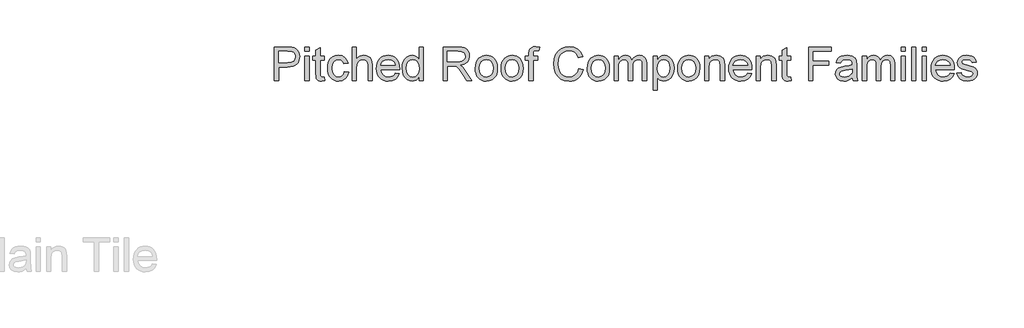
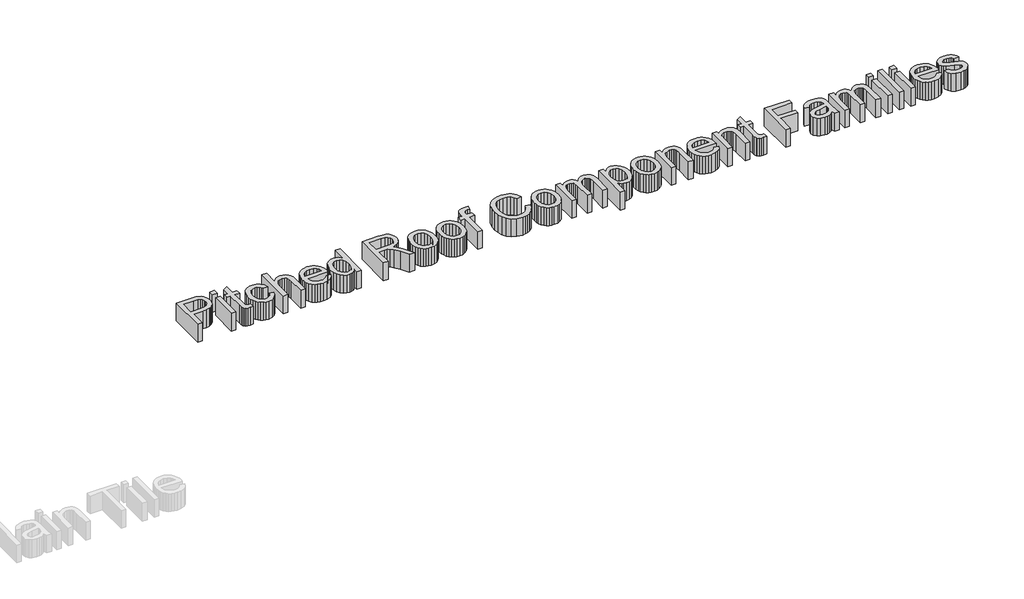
# One storey, part 6 of 6: 1 proxy.
"""IFC4 building model written with IfcOpenShell, lengths in millimetres."""

from ifc_helpers import new_model, si_unit, frame, origin, place, context, project, spatial, polyline, outline, extrude, element, save

model = new_model("IFC4")

# Units and contexts
model_context = context("Model", 3, world=origin())
ifc_project = project(units=[si_unit("LENGTHUNIT", "METRE", prefix="MILLI")], contexts=[model_context])

# Site, building, storey
site = spatial("IfcSite", under=ifc_project)
building = spatial("IfcBuilding", under=site)
storey = spatial("IfcBuildingStorey", under=building, Name="Marley Clay Plain Tile", Elevation=3000.0)

# Proxy
placement = place(None, origin())
element("IfcBuildingElementProxy", 1, Name="600mm Arial", ObjectType="600mm Arial", at=placement, inside=storey, context=model_context, shape_type="SweptSolid", body=[
    extrude(outline(polyline([(-10896.0304047, 7604.3149333), (-10896.0304047, 7899.6995487), (-10786.5592509, 7899.6995487), (-10742.4246355, 7896.8870487), (-10722.7461499, 7891.6316401), (-10706.5472316, 7883.0769526), (-10693.5033614, 7870.835366), (-10683.2900201, 7854.5192603), (-10676.6914624, 7835.273467), (-10674.4919432, 7814.242818), (-10680.432448, 7779.429116), (-10687.858079, 7764.1992483), (-10698.2539624, 7750.4207026), (-10712.5260477, 7738.9994285), (-10731.5802845, 7730.8413757), (-10755.4166727, 7725.9465439), (-10784.0352124, 7724.3149333), (-10859.1073278, 7724.3149333), (-10859.1073278, 7604.3149333), (-10896.0304047, 7604.3149333)]), holes=[polyline([(-10859.1073278, 7761.2380103), (-10781.8717509, 7761.2380103), (-10749.1313663, 7764.6274333), (-10727.4967509, 7774.7957026), (-10715.4354528, 7791.1118083), (-10711.4150201, 7812.944741), (-10713.7858134, 7829.5312795), (-10720.8981932, 7843.5216641), (-10731.8687461, 7854.0505103), (-10745.8140586, 7860.2524333), (-10782.7371355, 7862.7764718), (-10859.1073278, 7862.7764718), (-10859.1073278, 7761.2380103)])]), frame((0.0, 0.0, 3000.0), z_axis=(0.0, 0.0, 1.0), x_axis=(1.0, 0.0, 0.0)), (0.0, 0.0, 1.0), 150.0),
    extrude(outline(polyline([(-10628.338097, 7604.3149333), (-10628.338097, 7821.2380103), (-10591.4150201, 7821.2380103), (-10591.4150201, 7604.3149333), (-10628.338097, 7604.3149333)])), frame((0.0, 0.0, 3000.0), z_axis=(0.0, 0.0, 1.0), x_axis=(1.0, 0.0, 0.0)), (0.0, 0.0, 1.0), 150.0),
    extrude(outline(polyline([(-10628.338097, 7862.7764718), (-10628.338097, 7899.6995487), (-10591.4150201, 7899.6995487), (-10591.4150201, 7862.7764718), (-10628.338097, 7862.7764718)])), frame((0.0, 0.0, 3000.0), z_axis=(0.0, 0.0, 1.0), x_axis=(1.0, 0.0, 0.0)), (0.0, 0.0, 1.0), 150.0),
    extrude(outline(polyline([(-10457.5688663, 7635.1082026), (-10452.9534816, 7603.2332026), (-10480.5736739, 7599.6995487), (-10498.2960297, 7601.2320007), (-10511.5111739, 7605.8293564), (-10520.8501163, 7612.914693), (-10526.9438663, 7621.9110872), (-10530.2972316, 7637.3618083), (-10531.4150201, 7663.8101257), (-10531.4150201, 7784.3149333), (-10559.1073278, 7784.3149333), (-10559.1073278, 7821.2380103), (-10531.4150201, 7821.2380103), (-10531.4150201, 7873.9543564), (-10494.4919432, 7895.6610872), (-10494.4919432, 7821.2380103), (-10457.5688663, 7821.2380103), (-10457.5688663, 7784.3149333), (-10494.4919432, 7784.3149333), (-10494.4919432, 7664.8918564), (-10492.5448278, 7645.8533949), (-10486.2347316, 7639.1106064), (-10473.650597, 7636.6226257), (-10457.5688663, 7635.1082026)])), frame((0.0, 0.0, 3000.0), z_axis=(0.0, 0.0, 1.0), x_axis=(1.0, 0.0, 0.0)), (0.0, 0.0, 1.0), 150.0),
    extrude(outline(polyline([(-10282.1842509, 7682.7764718), (-10245.2611739, 7678.1610872), (-10255.5556451, 7645.3215439), (-10274.900597, 7620.5048372), (-10301.4751163, 7604.9008708), (-10333.4582893, 7599.6995487), (-10354.1666727, 7601.5137014), (-10372.7341307, 7606.9561593), (-10389.1606631, 7616.0269225), (-10403.4462701, 7628.725991), (-10415.0095213, 7644.8144826), (-10423.2689864, 7664.0535151), (-10428.2246655, 7686.4430884), (-10429.8765586, 7711.9832026), (-10427.0550441, 7744.8407747), (-10418.5905009, 7773.3173372), (-10404.3477124, 7796.3131305), (-10384.1914624, 7812.7283949), (-10360.0778807, 7822.5721449), (-10333.963097, 7825.8533949), (-10302.7641788, 7821.3461833), (-10277.8212701, 7807.8245487), (-10259.9276403, 7786.0096449), (-10249.8765586, 7756.6226257), (-10286.7996355, 7752.007241), (-10293.4973518, 7768.1160151), (-10303.9270393, 7779.663491), (-10317.5117749, 7786.6136112), (-10333.6746355, 7788.930318), (-10357.5358134, 7784.3690199), (-10376.4751163, 7770.6851257), (-10388.8338903, 7747.1394526), (-10392.9534816, 7712.992818), (-10388.9240345, 7678.3864478), (-10376.8356932, 7654.7596449), (-10358.2389384, 7641.1568805), (-10334.6842509, 7636.6226257), (-10315.5646595, 7639.4531545), (-10299.8885778, 7647.944741), (-10288.4853326, 7662.3137314), (-10282.1842509, 7682.7764718)])), frame((0.0, 0.0, 3000.0), z_axis=(0.0, 0.0, 1.0), x_axis=(1.0, 0.0, 0.0)), (0.0, 0.0, 1.0), 150.0),
    extrude(outline(polyline([(-10212.9534816, 7604.3149333), (-10212.9534816, 7899.6995487), (-10176.0304047, 7899.6995487), (-10176.0304047, 7791.0937795), (-10162.4682052, 7806.3011112), (-10147.2383374, 7817.163491), (-10130.3408013, 7823.6809189), (-10111.775597, 7825.8533949), (-10089.4739143, 7823.4826016), (-10070.3092509, 7816.3702218), (-10055.2191066, 7805.0751497), (-10045.1409816, 7790.1562795), (-10039.4618951, 7769.6574814), (-10037.5688663, 7741.6226257), (-10037.5688663, 7604.3149333), (-10074.4919432, 7604.3149333), (-10074.4919432, 7737.8005103), (-10077.4306451, 7760.913491), (-10086.2467509, 7776.742818), (-10100.4534816, 7785.883443), (-10119.5640586, 7788.930318), (-10135.1680249, 7786.8750295), (-10149.8164624, 7780.7091641), (-10161.9498759, 7771.0276737), (-10170.0087701, 7758.4255103), (-10174.5249961, 7741.6767122), (-10176.0304047, 7719.555318), (-10176.0304047, 7604.3149333), (-10212.9534816, 7604.3149333)])), frame((0.0, 0.0, 3000.0), z_axis=(0.0, 0.0, 1.0), x_axis=(1.0, 0.0, 0.0)), (0.0, 0.0, 1.0), 150.0),
    extrude(outline(polyline([(-9834.9246355, 7668.930318), (-9798.7227124, 7664.3149333), (-9811.7665826, 7637.0372891), (-9832.5808855, 7616.6466641), (-9860.6968711, 7603.9363276), (-9895.6457893, 7599.6995487), (-9918.5559456, 7601.527223), (-9938.9691066, 7607.0102458), (-9956.8852725, 7616.1486172), (-9972.3044432, 7628.9423372), (-9984.7037821, 7645.035336), (-9993.5604528, 7664.0715439), (-9998.8744552, 7686.050961), (-10000.6457893, 7710.9735872), (-9998.8564263, 7736.7413156), (-9993.4883374, 7759.4531545), (-9984.5415225, 7779.109104), (-9972.0159816, 7795.7091641), (-9956.6373759, 7808.8972651), (-9939.1313663, 7818.3173372), (-9919.4979528, 7823.9693805), (-9897.7371355, 7825.8533949), (-9876.6771896, 7823.9738877), (-9857.6319672, 7818.335366), (-9840.6014684, 7808.93783), (-9825.5856932, 7795.7812795), (-9813.3283314, 7779.2172771), (-9804.573073, 7759.5973853), (-9799.3199179, 7736.921604), (-9797.5688663, 7711.1899333), (-9797.7852124, 7701.2380103), (-9963.7227124, 7701.2380103), (-9957.3314864, 7673.5997891), (-9942.4847316, 7653.2812795), (-9921.057448, 7640.7872891), (-9894.9246355, 7636.6226257), (-9875.2731932, 7638.5517122), (-9858.7227124, 7644.3389718), (-9845.2731932, 7654.3449814), (-9834.9246355, 7668.930318)]), holes=[polyline([(-9963.7227124, 7738.1610872), (-9834.4919432, 7738.1610872), (-9839.4859336, 7757.6682987), (-9849.275597, 7771.6226257), (-9870.8020393, 7784.6033949), (-9897.8813663, 7788.930318), (-9922.7701884, 7785.4777939), (-9943.3501163, 7775.1202218), (-9957.6560057, 7758.9753901), (-9963.7227124, 7738.1610872)])]), frame((0.0, 0.0, 3000.0), z_axis=(0.0, 0.0, 1.0), x_axis=(1.0, 0.0, 0.0)), (0.0, 0.0, 1.0), 150.0),
    extrude(outline(polyline([(-9626.7996355, 7604.3149333), (-9626.7996355, 7639.1466641), (-9637.846811, 7621.8885511), (-9651.228722, 7609.5613276), (-9666.9453687, 7602.1649934), (-9684.9967509, 7599.6995487), (-9708.8669432, 7603.2692603), (-9730.7179047, 7613.9783949), (-9749.2155009, 7631.0787555), (-9763.025597, 7653.8221449), (-9771.6253566, 7681.289092), (-9774.4919432, 7712.5601257), (-9771.8507172, 7743.4435391), (-9763.9270393, 7771.3341641), (-9750.7299239, 7794.6454622), (-9732.2683855, 7811.7908949), (-9709.9396595, 7822.3377699), (-9685.1409816, 7825.8533949), (-9667.0760778, 7823.3383708), (-9651.1025201, 7815.7932987), (-9637.5628566, 7804.2277939), (-9626.7996355, 7789.6514718), (-9626.7996355, 7899.6995487), (-9589.8765586, 7899.6995487), (-9589.8765586, 7604.3149333), (-9626.7996355, 7604.3149333)]), holes=[polyline([(-9737.5688663, 7712.7043564), (-9733.4042028, 7679.3059189), (-9720.9102124, 7655.5529141), (-9702.7551643, 7641.3551978), (-9681.6073278, 7636.6226257), (-9660.4685057, 7641.1388516), (-9642.7731932, 7654.6875295), (-9630.7930249, 7677.5210632), (-9626.7996355, 7709.8918564), (-9630.8651403, 7745.2824814), (-9643.0616547, 7769.819741), (-9661.2076884, 7784.1526737), (-9683.1217509, 7788.930318), (-9704.4859336, 7784.3419766), (-9721.9919432, 7770.5769526), (-9733.6746355, 7746.9321208), (-9737.5688663, 7712.7043564)])]), frame((0.0, 0.0, 3000.0), z_axis=(0.0, 0.0, 1.0), x_axis=(1.0, 0.0, 0.0)), (0.0, 0.0, 1.0), 150.0),
    extrude(outline(polyline([(-9414.4919432, 7604.3149333), (-9414.4919432, 7899.6995487), (-9287.2082893, 7899.6995487), (-9252.9985538, 7897.7073612), (-9228.1097316, 7891.7307987), (-9209.9186259, 7880.6971449), (-9195.8020393, 7863.5336833), (-9186.7425441, 7842.2506305), (-9183.7227124, 7818.8582026), (-9188.7257172, 7789.7596449), (-9203.7347316, 7765.6370487), (-9215.1041727, 7755.8068204), (-9229.2004768, 7747.9507507), (-9265.5736739, 7738.1610872), (-9244.588097, 7722.367818), (-9214.6602124, 7684.3630103), (-9165.4054047, 7604.3149333), (-9208.3140586, 7604.3149333), (-9246.7515586, 7665.5408949), (-9274.5159816, 7706.069741), (-9294.0231932, 7725.2163757), (-9311.5832893, 7732.2476257), (-9333.0015586, 7733.5457026), (-9377.5688663, 7733.5457026), (-9377.5688663, 7604.3149333), (-9414.4919432, 7604.3149333)]), holes=[polyline([(-9377.5688663, 7770.4687795), (-9294.9246355, 7770.4687795), (-9271.1896595, 7771.7758708), (-9252.7731932, 7775.6971449), (-9238.9090105, 7782.4940199), (-9228.8308855, 7792.4279141), (-9222.6920634, 7804.4441401), (-9220.6457893, 7817.4880103), (-9224.5490345, 7835.4988276), (-9236.2587701, 7850.0120487), (-9256.4060057, 7859.585366), (-9285.6217509, 7862.7764718), (-9377.5688663, 7862.7764718), (-9377.5688663, 7770.4687795)])]), frame((0.0, 0.0, 3000.0), z_axis=(0.0, 0.0, 1.0), x_axis=(1.0, 0.0, 0.0)), (0.0, 0.0, 1.0), 150.0),
    extrude(outline(polyline([(-9132.9534816, 7712.7764718), (-9130.9567869, 7740.8699213), (-9124.9667028, 7765.0781545), (-9114.9832292, 7785.4011713), (-9101.0063663, 7801.8389718), (-9086.9348518, 7812.3452819), (-9071.4030009, 7819.8497891), (-9054.4108134, 7824.3524934), (-9035.9582893, 7825.8533949), (-9015.5879468, 7824.0257206), (-8997.1692268, 7818.5426978), (-8980.7021295, 7809.4043264), (-8966.1866547, 7796.6106064), (-8954.3394492, 7780.5942302), (-8945.8771595, 7761.7878901), (-8940.7997857, 7740.191586), (-8939.1073278, 7715.805318), (-8942.1001163, 7678.5036353), (-8951.0784816, 7650.1082026), (-8965.7810057, 7628.8431785), (-8985.9462701, 7612.9327218), (-9009.8975922, 7603.007842), (-9035.9582893, 7599.6995487), (-9056.6261078, 7601.5204622), (-9075.2161018, 7606.9832026), (-9091.7282713, 7616.0877699), (-9106.1626163, 7628.8341641), (-9117.8836199, 7645.0060391), (-9126.2557653, 7664.3870487), (-9131.2790526, 7686.977193), (-9132.9534816, 7712.7764718)]), holes=[polyline([(-9096.0304047, 7712.8485872), (-9091.7575682, 7679.4321208), (-9078.9390586, 7655.6250295), (-9059.6481932, 7641.3732266), (-9035.9582893, 7636.6226257), (-9012.3765586, 7641.4002699), (-8993.1217509, 7655.7332026), (-8980.3032413, 7679.8557987), (-8976.0304047, 7714.0024333), (-8980.3302845, 7746.445342), (-8993.2299239, 7769.9279141), (-9012.5117749, 7784.179717), (-9035.9582893, 7788.930318), (-9059.6481932, 7784.1977458), (-9078.9390586, 7770.0000295), (-9091.7575682, 7746.2470247), (-9096.0304047, 7712.8485872)])]), frame((0.0, 0.0, 3000.0), z_axis=(0.0, 0.0, 1.0), x_axis=(1.0, 0.0, 0.0)), (0.0, 0.0, 1.0), 150.0),
    extrude(outline(polyline([(-8906.7996355, 7712.7764718), (-8904.8029408, 7740.8699213), (-8898.8128566, 7765.0781545), (-8888.8293831, 7785.4011713), (-8874.8525201, 7801.8389718), (-8860.7810057, 7812.3452819), (-8845.2491547, 7819.8497891), (-8828.2569672, 7824.3524934), (-8809.8044432, 7825.8533949), (-8789.4341006, 7824.0257206), (-8771.0153807, 7818.5426978), (-8754.5482833, 7809.4043264), (-8740.0328086, 7796.6106064), (-8728.185603, 7780.5942302), (-8719.7233134, 7761.7878901), (-8714.6459396, 7740.191586), (-8712.9534816, 7715.805318), (-8715.9462701, 7678.5036353), (-8724.9246355, 7650.1082026), (-8739.6271595, 7628.8431785), (-8759.7924239, 7612.9327218), (-8783.7437461, 7603.007842), (-8809.8044432, 7599.6995487), (-8830.4722617, 7601.5204622), (-8849.0622557, 7606.9832026), (-8865.5744251, 7616.0877699), (-8880.0087701, 7628.8341641), (-8891.7297737, 7645.0060391), (-8900.1019191, 7664.3870487), (-8905.1252064, 7686.977193), (-8906.7996355, 7712.7764718)]), holes=[polyline([(-8869.8765586, 7712.8485872), (-8865.603722, 7679.4321208), (-8852.7852124, 7655.6250295), (-8833.494347, 7641.3732266), (-8809.8044432, 7636.6226257), (-8786.2227124, 7641.4002699), (-8766.9679047, 7655.7332026), (-8754.1493951, 7679.8557987), (-8749.8765586, 7714.0024333), (-8754.1764384, 7746.445342), (-8767.0760778, 7769.9279141), (-8786.3579288, 7784.179717), (-8809.8044432, 7788.930318), (-8833.494347, 7784.1977458), (-8852.7852124, 7770.0000295), (-8865.603722, 7746.2470247), (-8869.8765586, 7712.8485872)])]), frame((0.0, 0.0, 3000.0), z_axis=(0.0, 0.0, 1.0), x_axis=(1.0, 0.0, 0.0)), (0.0, 0.0, 1.0), 150.0),
    extrude(outline(polyline([(-8662.1842509, 7604.3149333), (-8662.1842509, 7784.3149333), (-8694.4919432, 7784.3149333), (-8694.4919432, 7821.2380103), (-8662.1842509, 7821.2380103), (-8662.1842509, 7843.0889718), (-8658.2900201, 7873.882241), (-8650.8621355, 7886.1598853), (-8639.3957893, 7895.8774333), (-8623.3501163, 7902.2055583), (-8602.1842509, 7904.3149333), (-8568.5063663, 7900.2764718), (-8573.9150201, 7865.6610872), (-8595.1890586, 7867.3918564), (-8609.2245153, 7865.8594045), (-8618.4462701, 7861.2620487), (-8623.557448, 7852.4820007), (-8625.2611739, 7838.4014718), (-8625.2611739, 7821.2380103), (-8583.7227124, 7821.2380103), (-8583.7227124, 7784.3149333), (-8625.2611739, 7784.3149333), (-8625.2611739, 7604.3149333), (-8662.1842509, 7604.3149333)])), frame((0.0, 0.0, 3000.0), z_axis=(0.0, 0.0, 1.0), x_axis=(1.0, 0.0, 0.0)), (0.0, 0.0, 1.0), 150.0),
    extrude(outline(polyline([(-8223.7227124, 7709.3149333), (-8186.7996355, 7699.7957026), (-8194.1058254, 7676.8337134), (-8203.8368951, 7656.7698612), (-8215.9928446, 7639.6041461), (-8230.5736739, 7625.336568), (-8247.2503566, 7614.120372), (-8265.6938663, 7606.1088035), (-8285.9042028, 7601.3018624), (-8307.8813663, 7599.6995487), (-8350.7088903, 7604.5493083), (-8384.7203086, 7619.0985872), (-8410.7900201, 7642.8425776), (-8429.7924239, 7675.2764718), (-8441.3939864, 7713.4074814), (-8445.2611739, 7754.242818), (-8440.8891788, 7797.3137314), (-8427.7731932, 7834.507241), (-8406.5983134, 7864.6424574), (-8378.0496355, 7886.538491), (-8344.1914624, 7899.8708228), (-8307.088097, 7904.3149333), (-8266.604323, 7898.5637314), (-8248.9923939, 7891.374729), (-8233.1337701, 7881.3101257), (-8219.2898699, 7868.6358468), (-8207.7221114, 7853.617818), (-8191.4150201, 7816.5505103), (-8228.338097, 7807.7524333), (-8241.1385778, 7834.6785151), (-8258.6265586, 7853.149068), (-8281.0183855, 7863.8311593), (-8308.5304047, 7867.3918564), (-8340.2431451, 7863.4435391), (-8366.2948278, 7851.5985872), (-8386.0634576, 7833.100991), (-8398.9270393, 7809.194741), (-8405.9853326, 7782.1695007), (-8408.338097, 7754.3149333), (-8405.5526403, 7720.2043564), (-8397.1962701, 7690.7091641), (-8382.9534816, 7666.9561593), (-8362.5087701, 7650.0721449), (-8337.9985538, 7639.9850055), (-8311.5592509, 7636.6226257), (-8280.7389384, 7641.2019526), (-8255.056847, 7654.9399333), (-8235.666823, 7677.6923372), (-8223.7227124, 7709.3149333)])), frame((0.0, 0.0, 3000.0), z_axis=(0.0, 0.0, 1.0), x_axis=(1.0, 0.0, 0.0)), (0.0, 0.0, 1.0), 150.0),
    extrude(outline(polyline([(-8149.8765586, 7712.7764718), (-8147.8798638, 7740.8699213), (-8141.8897797, 7765.0781545), (-8131.9063062, 7785.4011713), (-8117.9294432, 7801.8389718), (-8103.8579288, 7812.3452819), (-8088.3260778, 7819.8497891), (-8071.3338903, 7824.3524934), (-8052.8813663, 7825.8533949), (-8032.5110237, 7824.0257206), (-8014.0923038, 7818.5426978), (-7997.6252064, 7809.4043264), (-7983.1097316, 7796.6106064), (-7971.2625261, 7780.5942302), (-7962.8002364, 7761.7878901), (-7957.7228626, 7740.191586), (-7956.0304047, 7715.805318), (-7959.0231932, 7678.5036353), (-7968.0015586, 7650.1082026), (-7982.7040826, 7628.8431785), (-8002.869347, 7612.9327218), (-8026.8206691, 7603.007842), (-8052.8813663, 7599.6995487), (-8073.5491848, 7601.5204622), (-8092.1391788, 7606.9832026), (-8108.6513482, 7616.0877699), (-8123.0856932, 7628.8341641), (-8134.8066968, 7645.0060391), (-8143.1788422, 7664.3870487), (-8148.2021295, 7686.977193), (-8149.8765586, 7712.7764718)]), holes=[polyline([(-8112.9534816, 7712.8485872), (-8108.6806451, 7679.4321208), (-8095.8621355, 7655.6250295), (-8076.5712701, 7641.3732266), (-8052.8813663, 7636.6226257), (-8029.2996355, 7641.4002699), (-8010.0448278, 7655.7332026), (-7997.2263182, 7679.8557987), (-7992.9534816, 7714.0024333), (-7997.2533614, 7746.445342), (-8010.1530009, 7769.9279141), (-8029.4348518, 7784.179717), (-8052.8813663, 7788.930318), (-8076.5712701, 7784.1977458), (-8095.8621355, 7770.0000295), (-8108.6806451, 7746.2470247), (-8112.9534816, 7712.8485872)])]), frame((0.0, 0.0, 3000.0), z_axis=(0.0, 0.0, 1.0), x_axis=(1.0, 0.0, 0.0)), (0.0, 0.0, 1.0), 150.0),
    extrude(outline(polyline([(-7914.4919432, 7604.3149333), (-7914.4919432, 7821.2380103), (-7877.5688663, 7821.2380103), (-7877.5688663, 7785.5408949), (-7866.463097, 7801.9381305), (-7852.1842509, 7814.7836833), (-7835.2191066, 7823.085967), (-7816.0544432, 7825.8533949), (-7795.5195874, 7823.0318805), (-7779.0592509, 7814.5673372), (-7766.7635778, 7801.0186593), (-7758.7227124, 7782.944741), (-7745.2641788, 7801.7172771), (-7729.9126163, 7815.1262314), (-7712.6680249, 7823.171604), (-7693.5304047, 7825.8533949), (-7665.7749961, 7821.3912555), (-7645.2491547, 7808.0048372), (-7632.5658614, 7785.3335632), (-7628.338097, 7753.0168564), (-7628.338097, 7604.3149333), (-7665.2611739, 7604.3149333), (-7665.2611739, 7737.1514718), (-7668.6866547, 7767.9807987), (-7673.5003566, 7776.4813997), (-7681.0905009, 7783.1610872), (-7690.8531211, 7787.4880103), (-7702.1842509, 7788.930318), (-7722.1872557, 7785.2344045), (-7738.494347, 7774.1466641), (-7749.338698, 7754.9098853), (-7752.9534816, 7726.7668564), (-7752.9534816, 7604.3149333), (-7789.8765586, 7604.3149333), (-7789.8765586, 7741.2620487), (-7792.0129768, 7762.1394526), (-7798.4222316, 7777.0312795), (-7809.6992749, 7785.9555583), (-7826.4390586, 7788.930318), (-7840.6638182, 7786.9471449), (-7853.7707893, 7780.9976257), (-7864.588097, 7771.225991), (-7871.9438663, 7757.7764718), (-7876.1626163, 7739.116616), (-7877.5688663, 7713.7139718), (-7877.5688663, 7604.3149333), (-7914.4919432, 7604.3149333)])), frame((0.0, 0.0, 3000.0), z_axis=(0.0, 0.0, 1.0), x_axis=(1.0, 0.0, 0.0)), (0.0, 0.0, 1.0), 150.0),
    extrude(outline(polyline([(-7572.9534816, 7521.2380103), (-7572.9534816, 7821.2380103), (-7536.0304047, 7821.2380103), (-7536.0304047, 7785.0360872), (-7523.9871355, 7802.8936593), (-7510.5015586, 7815.649068), (-7494.7804047, 7823.3023132), (-7476.0304047, 7825.8533949), (-7451.0604528, 7822.2836833), (-7429.2275201, 7811.5745487), (-7411.4510778, 7794.3750295), (-7398.650597, 7771.3341641), (-7390.916222, 7744.1286353), (-7388.338097, 7714.4351257), (-7391.2497557, 7682.8576016), (-7399.9847316, 7654.6154141), (-7414.2635778, 7631.1418564), (-7433.806847, 7613.8702218), (-7456.5682653, 7603.242217), (-7480.5015586, 7599.6995487), (-7497.4757172, 7602.070342), (-7512.6289624, 7609.1827218), (-7525.6007172, 7619.9188997), (-7536.0304047, 7633.1610872), (-7536.0304047, 7521.2380103), (-7572.9534816, 7521.2380103)]), holes=[polyline([(-7536.0304047, 7711.0457026), (-7532.0370153, 7677.944741), (-7520.056847, 7654.7957026), (-7502.3795634, 7641.1658949), (-7481.2948278, 7636.6226257), (-7459.8675441, 7641.3281545), (-7441.7395393, 7655.444741), (-7429.3807653, 7679.4411353), (-7425.2611739, 7713.7860872), (-7429.2816066, 7746.7067603), (-7441.3429047, 7770.180318), (-7458.9931451, 7784.242818), (-7479.7804047, 7788.930318), (-7500.6487941, 7783.945342), (-7518.9751163, 7768.9904141), (-7531.7665826, 7744.5342843), (-7536.0304047, 7711.0457026)])]), frame((0.0, 0.0, 3000.0), z_axis=(0.0, 0.0, 1.0), x_axis=(1.0, 0.0, 0.0)), (0.0, 0.0, 1.0), 150.0),
    extrude(outline(polyline([(-7356.0304047, 7712.7764718), (-7354.03371, 7740.8699213), (-7348.0436259, 7765.0781545), (-7338.0601523, 7785.4011713), (-7324.0832893, 7801.8389718), (-7310.0117749, 7812.3452819), (-7294.4799239, 7819.8497891), (-7277.4877364, 7824.3524934), (-7259.0352124, 7825.8533949), (-7238.6648699, 7824.0257206), (-7220.2461499, 7818.5426978), (-7203.7790526, 7809.4043264), (-7189.2635778, 7796.6106064), (-7177.4163723, 7780.5942302), (-7168.9540826, 7761.7878901), (-7163.8767088, 7740.191586), (-7162.1842509, 7715.805318), (-7165.1770393, 7678.5036353), (-7174.1554047, 7650.1082026), (-7188.8579288, 7628.8431785), (-7209.0231932, 7612.9327218), (-7232.9745153, 7603.007842), (-7259.0352124, 7599.6995487), (-7279.7030309, 7601.5204622), (-7298.2930249, 7606.9832026), (-7314.8051944, 7616.0877699), (-7329.2395393, 7628.8341641), (-7340.9605429, 7645.0060391), (-7349.3326884, 7664.3870487), (-7354.3559756, 7686.977193), (-7356.0304047, 7712.7764718)]), holes=[polyline([(-7319.1073278, 7712.8485872), (-7314.8344913, 7679.4321208), (-7302.0159816, 7655.6250295), (-7282.7251163, 7641.3732266), (-7259.0352124, 7636.6226257), (-7235.4534816, 7641.4002699), (-7216.1986739, 7655.7332026), (-7203.3801643, 7679.8557987), (-7199.1073278, 7714.0024333), (-7203.4072076, 7746.445342), (-7216.306847, 7769.9279141), (-7235.588698, 7784.179717), (-7259.0352124, 7788.930318), (-7282.7251163, 7784.1977458), (-7302.0159816, 7770.0000295), (-7314.8344913, 7746.2470247), (-7319.1073278, 7712.8485872)])]), frame((0.0, 0.0, 3000.0), z_axis=(0.0, 0.0, 1.0), x_axis=(1.0, 0.0, 0.0)), (0.0, 0.0, 1.0), 150.0),
    extrude(outline(polyline([(-7120.6457893, 7604.3149333), (-7120.6457893, 7821.2380103), (-7083.7227124, 7821.2380103), (-7083.7227124, 7790.9495487), (-7070.8951884, 7806.2199814), (-7055.4895393, 7817.1274333), (-7037.5057653, 7823.6719045), (-7016.9438663, 7825.8533949), (-6998.7437461, 7824.0955824), (-6982.0760778, 7818.8221449), (-6968.1758374, 7810.6911353), (-6958.2780009, 7800.3606064), (-6947.2082893, 7773.2091641), (-6945.2611739, 7737.5120487), (-6945.2611739, 7604.3149333), (-6982.1842509, 7604.3149333), (-6982.1842509, 7732.5360872), (-6986.4390586, 7765.2043564), (-6992.3254768, 7774.9309189), (-7001.4751163, 7782.475991), (-7013.2028807, 7787.3167362), (-7026.8236739, 7788.930318), (-7048.4492749, 7785.3065199), (-7066.8837701, 7774.4351257), (-7074.2508074, 7765.5604261), (-7079.5129768, 7753.4315199), (-7083.7227124, 7719.4110872), (-7083.7227124, 7604.3149333), (-7120.6457893, 7604.3149333)])), frame((0.0, 0.0, 3000.0), z_axis=(0.0, 0.0, 1.0), x_axis=(1.0, 0.0, 0.0)), (0.0, 0.0, 1.0), 150.0),
    extrude(outline(polyline([(-6742.6169432, 7668.930318), (-6706.4150201, 7664.3149333), (-6719.4588903, 7637.0372891), (-6740.2731932, 7616.6466641), (-6768.3891788, 7603.9363276), (-6803.338097, 7599.6995487), (-6826.2482533, 7601.527223), (-6846.6614143, 7607.0102458), (-6864.5775802, 7616.1486172), (-6879.9967509, 7628.9423372), (-6892.3960898, 7645.035336), (-6901.2527605, 7664.0715439), (-6906.5667629, 7686.050961), (-6908.338097, 7710.9735872), (-6906.548734, 7736.7413156), (-6901.1806451, 7759.4531545), (-6892.2338302, 7779.109104), (-6879.7082893, 7795.7091641), (-6864.3296836, 7808.8972651), (-6846.8236739, 7818.3173372), (-6827.1902605, 7823.9693805), (-6805.4294432, 7825.8533949), (-6784.3694973, 7823.9738877), (-6765.3242749, 7818.335366), (-6748.2937761, 7808.93783), (-6733.2780009, 7795.7812795), (-6721.0206391, 7779.2172771), (-6712.2653807, 7759.5973853), (-6707.0122256, 7736.921604), (-6705.2611739, 7711.1899333), (-6705.4775201, 7701.2380103), (-6871.4150201, 7701.2380103), (-6865.0237941, 7673.5997891), (-6850.1770393, 7653.2812795), (-6828.7497557, 7640.7872891), (-6802.6169432, 7636.6226257), (-6782.9655009, 7638.5517122), (-6766.4150201, 7644.3389718), (-6752.9655009, 7654.3449814), (-6742.6169432, 7668.930318)]), holes=[polyline([(-6871.4150201, 7738.1610872), (-6742.1842509, 7738.1610872), (-6747.1782413, 7757.6682987), (-6756.9679047, 7771.6226257), (-6778.494347, 7784.6033949), (-6805.5736739, 7788.930318), (-6830.4624961, 7785.4777939), (-6851.0424239, 7775.1202218), (-6865.3483134, 7758.9753901), (-6871.4150201, 7738.1610872)])]), frame((0.0, 0.0, 3000.0), z_axis=(0.0, 0.0, 1.0), x_axis=(1.0, 0.0, 0.0)), (0.0, 0.0, 1.0), 150.0),
    extrude(outline(polyline([(-6668.338097, 7604.3149333), (-6668.338097, 7821.2380103), (-6631.4150201, 7821.2380103), (-6631.4150201, 7790.9495487), (-6618.5874961, 7806.2199814), (-6603.181847, 7817.1274333), (-6585.198073, 7823.6719045), (-6564.6361739, 7825.8533949), (-6546.4360538, 7824.0955824), (-6529.7683855, 7818.8221449), (-6515.8681451, 7810.6911353), (-6505.9703086, 7800.3606064), (-6494.900597, 7773.2091641), (-6492.9534816, 7737.5120487), (-6492.9534816, 7604.3149333), (-6529.8765586, 7604.3149333), (-6529.8765586, 7732.5360872), (-6534.1313663, 7765.2043564), (-6540.0177845, 7774.9309189), (-6549.1674239, 7782.475991), (-6560.8951884, 7787.3167362), (-6574.5159816, 7788.930318), (-6596.1415826, 7785.3065199), (-6614.5760778, 7774.4351257), (-6621.9431151, 7765.5604261), (-6627.2052845, 7753.4315199), (-6631.4150201, 7719.4110872), (-6631.4150201, 7604.3149333), (-6668.338097, 7604.3149333)])), frame((0.0, 0.0, 3000.0), z_axis=(0.0, 0.0, 1.0), x_axis=(1.0, 0.0, 0.0)), (0.0, 0.0, 1.0), 150.0),
    extrude(outline(polyline([(-6363.7227124, 7635.1082026), (-6359.1073278, 7603.2332026), (-6386.7275201, 7599.6995487), (-6404.4498759, 7601.2320007), (-6417.6650201, 7605.8293564), (-6427.0039624, 7612.914693), (-6433.0977124, 7621.9110872), (-6436.4510778, 7637.3618083), (-6437.5688663, 7663.8101257), (-6437.5688663, 7784.3149333), (-6465.2611739, 7784.3149333), (-6465.2611739, 7821.2380103), (-6437.5688663, 7821.2380103), (-6437.5688663, 7873.9543564), (-6400.6457893, 7895.6610872), (-6400.6457893, 7821.2380103), (-6363.7227124, 7821.2380103), (-6363.7227124, 7784.3149333), (-6400.6457893, 7784.3149333), (-6400.6457893, 7664.8918564), (-6398.6986739, 7645.8533949), (-6392.3885778, 7639.1106064), (-6379.8044432, 7636.6226257), (-6363.7227124, 7635.1082026)])), frame((0.0, 0.0, 3000.0), z_axis=(0.0, 0.0, 1.0), x_axis=(1.0, 0.0, 0.0)), (0.0, 0.0, 1.0), 150.0),
    extrude(outline(polyline([(-6206.7996355, 7604.3149333), (-6206.7996355, 7899.6995487), (-6008.338097, 7899.6995487), (-6008.338097, 7862.7764718), (-6169.8765586, 7862.7764718), (-6169.8765586, 7775.0841641), (-6031.4150201, 7775.0841641), (-6031.4150201, 7738.1610872), (-6169.8765586, 7738.1610872), (-6169.8765586, 7604.3149333), (-6206.7996355, 7604.3149333)])), frame((0.0, 0.0, 3000.0), z_axis=(0.0, 0.0, 1.0), x_axis=(1.0, 0.0, 0.0)), (0.0, 0.0, 1.0), 150.0),
    extrude(outline(polyline([(-5823.7227124, 7632.007241), (-5841.3639384, 7616.8810391), (-5859.5280009, 7606.9832026), (-5878.6295634, 7601.5204622), (-5899.0832893, 7599.6995487), (-5929.9396595, 7604.0805583), (-5952.7010778, 7617.2235872), (-5966.7365345, 7637.1815199), (-5971.4150201, 7662.007241), (-5969.6481932, 7677.3137314), (-5964.3477124, 7691.2139718), (-5956.1716307, 7703.1130103), (-5945.7780009, 7712.4158949), (-5919.9246355, 7724.5312795), (-5887.9775201, 7730.0841641), (-5850.2251163, 7735.9255103), (-5823.9390586, 7742.7764718), (-5823.7227124, 7750.9976257), (-5826.2647797, 7767.475991), (-5833.8909816, 7778.257241), (-5850.9462701, 7786.2620487), (-5874.7082893, 7788.930318), (-5896.7034816, 7787.1544766), (-5912.0640586, 7781.8269526), (-5922.5388182, 7771.9741882), (-5929.8765586, 7756.6226257), (-5966.7996355, 7761.2380103), (-5960.3903807, 7781.430318), (-5950.8260778, 7797.2957026), (-5937.2142989, 7809.429116), (-5918.6626163, 7818.4255103), (-5895.9733134, 7823.9964237), (-5869.9486739, 7825.8533949), (-5844.9877364, 7824.2127699), (-5825.2010778, 7819.2908949), (-5810.2822076, 7811.8900535), (-5799.9246355, 7802.8125295), (-5793.0556451, 7791.5895728), (-5788.6025201, 7777.7524333), (-5786.7996355, 7745.444741), (-5786.7996355, 7699.507241), (-5784.9246355, 7635.3606064), (-5777.5688663, 7604.3149333), (-5814.4919432, 7604.3149333), (-5823.7227124, 7632.007241)]), holes=[polyline([(-5823.7227124, 7705.8533949), (-5883.2900201, 7694.5312795), (-5915.056847, 7688.5457026), (-5929.4438663, 7678.8101257), (-5934.4919432, 7664.6033949), (-5931.7425441, 7653.6238276), (-5923.494347, 7644.6274333), (-5909.9276403, 7638.6238276), (-5891.2227124, 7636.6226257), (-5871.3909816, 7638.8311593), (-5853.8669432, 7645.4567603), (-5839.6602124, 7655.2193805), (-5829.7804047, 7666.8389718), (-5825.3993951, 7678.8101257), (-5823.9390586, 7695.3966641), (-5823.7227124, 7705.8533949)])]), frame((0.0, 0.0, 3000.0), z_axis=(0.0, 0.0, 1.0), x_axis=(1.0, 0.0, 0.0)), (0.0, 0.0, 1.0), 150.0),
    extrude(outline(polyline([(-5736.0304047, 7604.3149333), (-5736.0304047, 7821.2380103), (-5699.1073278, 7821.2380103), (-5699.1073278, 7785.5408949), (-5688.0015586, 7801.9381305), (-5673.7227124, 7814.7836833), (-5656.7575682, 7823.085967), (-5637.5929047, 7825.8533949), (-5617.0580489, 7823.0318805), (-5600.5977124, 7814.5673372), (-5588.3020393, 7801.0186593), (-5580.2611739, 7782.944741), (-5566.8026403, 7801.7172771), (-5551.4510778, 7815.1262314), (-5534.2064864, 7823.171604), (-5515.0688663, 7825.8533949), (-5487.3134576, 7821.3912555), (-5466.7876163, 7808.0048372), (-5454.104323, 7785.3335632), (-5449.8765586, 7753.0168564), (-5449.8765586, 7604.3149333), (-5486.7996355, 7604.3149333), (-5486.7996355, 7737.1514718), (-5490.2251163, 7767.9807987), (-5495.0388182, 7776.4813997), (-5502.6289624, 7783.1610872), (-5512.3915826, 7787.4880103), (-5523.7227124, 7788.930318), (-5543.7257172, 7785.2344045), (-5560.0328086, 7774.1466641), (-5570.8771595, 7754.9098853), (-5574.4919432, 7726.7668564), (-5574.4919432, 7604.3149333), (-5611.4150201, 7604.3149333), (-5611.4150201, 7741.2620487), (-5613.5514384, 7762.1394526), (-5619.9606932, 7777.0312795), (-5631.2377364, 7785.9555583), (-5647.9775201, 7788.930318), (-5662.2022797, 7786.9471449), (-5675.3092509, 7780.9976257), (-5686.1265586, 7771.225991), (-5693.4823278, 7757.7764718), (-5697.7010778, 7739.116616), (-5699.1073278, 7713.7139718), (-5699.1073278, 7604.3149333), (-5736.0304047, 7604.3149333)])), frame((0.0, 0.0, 3000.0), z_axis=(0.0, 0.0, 1.0), x_axis=(1.0, 0.0, 0.0)), (0.0, 0.0, 1.0), 150.0),
    extrude(outline(polyline([(-5394.4919432, 7604.3149333), (-5394.4919432, 7821.2380103), (-5357.5688663, 7821.2380103), (-5357.5688663, 7604.3149333), (-5394.4919432, 7604.3149333)])), frame((0.0, 0.0, 3000.0), z_axis=(0.0, 0.0, 1.0), x_axis=(1.0, 0.0, 0.0)), (0.0, 0.0, 1.0), 150.0),
    extrude(outline(polyline([(-5394.4919432, 7862.7764718), (-5394.4919432, 7899.6995487), (-5357.5688663, 7899.6995487), (-5357.5688663, 7862.7764718), (-5394.4919432, 7862.7764718)])), frame((0.0, 0.0, 3000.0), z_axis=(0.0, 0.0, 1.0), x_axis=(1.0, 0.0, 0.0)), (0.0, 0.0, 1.0), 150.0),
    extrude(outline(polyline([(-5302.1842509, 7604.3149333), (-5302.1842509, 7899.6995487), (-5265.2611739, 7899.6995487), (-5265.2611739, 7604.3149333), (-5302.1842509, 7604.3149333)])), frame((0.0, 0.0, 3000.0), z_axis=(0.0, 0.0, 1.0), x_axis=(1.0, 0.0, 0.0)), (0.0, 0.0, 1.0), 150.0),
    extrude(outline(polyline([(-5209.8765586, 7604.3149333), (-5209.8765586, 7821.2380103), (-5172.9534816, 7821.2380103), (-5172.9534816, 7604.3149333), (-5209.8765586, 7604.3149333)])), frame((0.0, 0.0, 3000.0), z_axis=(0.0, 0.0, 1.0), x_axis=(1.0, 0.0, 0.0)), (0.0, 0.0, 1.0), 150.0),
    extrude(outline(polyline([(-5209.8765586, 7862.7764718), (-5209.8765586, 7899.6995487), (-5172.9534816, 7899.6995487), (-5172.9534816, 7862.7764718), (-5209.8765586, 7862.7764718)])), frame((0.0, 0.0, 3000.0), z_axis=(0.0, 0.0, 1.0), x_axis=(1.0, 0.0, 0.0)), (0.0, 0.0, 1.0), 150.0),
    extrude(outline(polyline([(-4965.6938663, 7668.930318), (-4929.4919432, 7664.3149333), (-4942.5358134, 7637.0372891), (-4963.3501163, 7616.6466641), (-4991.4661018, 7603.9363276), (-5026.4150201, 7599.6995487), (-5049.3251763, 7601.527223), (-5069.7383374, 7607.0102458), (-5087.6545033, 7616.1486172), (-5103.0736739, 7628.9423372), (-5115.4730129, 7645.035336), (-5124.3296836, 7664.0715439), (-5129.643686, 7686.050961), (-5131.4150201, 7710.9735872), (-5129.6256571, 7736.7413156), (-5124.2575682, 7759.4531545), (-5115.3107533, 7779.109104), (-5102.7852124, 7795.7091641), (-5087.4066066, 7808.8972651), (-5069.900597, 7818.3173372), (-5050.2671836, 7823.9693805), (-5028.5063663, 7825.8533949), (-5007.4464203, 7823.9738877), (-4988.401198, 7818.335366), (-4971.3706992, 7808.93783), (-4956.3549239, 7795.7812795), (-4944.0975622, 7779.2172771), (-4935.3423038, 7759.5973853), (-4930.0891487, 7736.921604), (-4928.338097, 7711.1899333), (-4928.5544432, 7701.2380103), (-5094.4919432, 7701.2380103), (-5088.1007172, 7673.5997891), (-5073.2539624, 7653.2812795), (-5051.8266788, 7640.7872891), (-5025.6938663, 7636.6226257), (-5006.0424239, 7638.5517122), (-4989.4919432, 7644.3389718), (-4976.0424239, 7654.3449814), (-4965.6938663, 7668.930318)]), holes=[polyline([(-5094.4919432, 7738.1610872), (-4965.2611739, 7738.1610872), (-4970.2551643, 7757.6682987), (-4980.0448278, 7771.6226257), (-5001.5712701, 7784.6033949), (-5028.650597, 7788.930318), (-5053.5394191, 7785.4777939), (-5074.119347, 7775.1202218), (-5088.4252364, 7758.9753901), (-5094.4919432, 7738.1610872)])]), frame((0.0, 0.0, 3000.0), z_axis=(0.0, 0.0, 1.0), x_axis=(1.0, 0.0, 0.0)), (0.0, 0.0, 1.0), 150.0),
    extrude(outline(polyline([(-4905.2611739, 7668.930318), (-4868.338097, 7673.5457026), (-4862.5147797, 7657.7524333), (-4851.2467509, 7646.1418564), (-4834.4618951, 7639.0024333), (-4812.088097, 7636.6226257), (-4789.9847316, 7638.804116), (-4774.4438663, 7645.3485872), (-4765.2491547, 7654.8317603), (-4762.1842509, 7665.8293564), (-4765.2671836, 7675.2404141), (-4774.5159816, 7682.4158949), (-4812.5207893, 7692.944741), (-4868.1217509, 7711.0096449), (-4882.1932653, 7720.0871689), (-4892.3885778, 7732.1033949), (-4898.5814864, 7746.2920968), (-4900.6457893, 7761.8870487), (-4898.9871355, 7776.1929382), (-4894.0111739, 7789.399068), (-4886.1686259, 7800.9826016), (-4875.9102124, 7810.4207026), (-4852.4366547, 7821.3461833), (-4820.6698278, 7825.8533949), (-4796.6373759, 7824.0414958), (-4775.7419432, 7818.6057987), (-4758.9390586, 7810.0781545), (-4747.1842509, 7798.9904141), (-4739.3957893, 7784.5222651), (-4734.4919432, 7765.8533949), (-4771.4150201, 7761.2380103), (-4776.0754768, 7772.8576016), (-4785.2972316, 7781.6106064), (-4799.1704288, 7787.1003901), (-4817.7852124, 7788.930318), (-4838.9871355, 7787.1815199), (-4853.1217509, 7781.9351257), (-4861.072472, 7774.3630103), (-4863.7227124, 7765.6370487), (-4859.3236739, 7754.8918564), (-4845.5496355, 7746.742818), (-4813.7467509, 7738.882241), (-4759.5520393, 7721.5024333), (-4745.2371355, 7713.1911353), (-4734.3837701, 7701.8149333), (-4727.541823, 7687.3377699), (-4725.2611739, 7669.7235872), (-4727.9384576, 7651.5144526), (-4735.9703086, 7634.3870487), (-4749.0502364, 7619.6845247), (-4766.8717509, 7608.7500295), (-4788.3981932, 7601.9621689), (-4812.5929047, 7599.6995487), (-4849.822472, 7604.0625295), (-4876.9919432, 7617.1514718), (-4895.1289624, 7638.8221449), (-4905.2611739, 7668.930318)])), frame((0.0, 0.0, 3000.0), z_axis=(0.0, 0.0, 1.0), x_axis=(1.0, 0.0, 0.0)), (0.0, 0.0, 1.0), 150.0),
])

save(model, "model.ifc")
